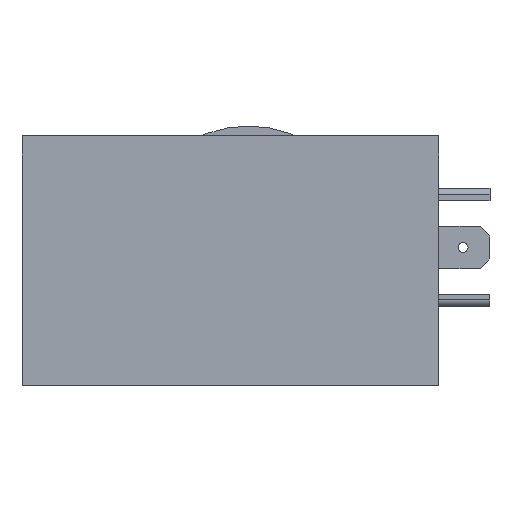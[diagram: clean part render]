
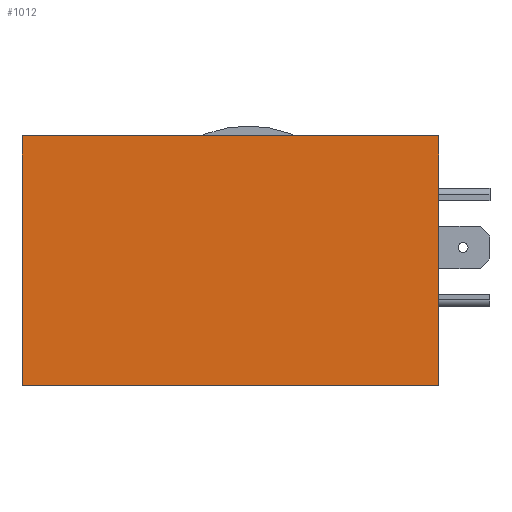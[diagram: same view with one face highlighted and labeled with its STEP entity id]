
A CAD part, front view. The second image highlights one B-rep face of the part: STEP entity #1012.
In plain terms, the highlighted planar face has unit normal (0, -1, 0) as drawn and (-1, 0, 0) by its records, which use the part's own axes.
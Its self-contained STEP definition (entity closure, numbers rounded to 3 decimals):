
#1012 = ADVANCED_FACE( '', ( #2040 ), #2041, .T. );
#2040 = FACE_OUTER_BOUND( '', #3165, .T. );
#2041 = PLANE( '', #3166 );
#3165 = EDGE_LOOP( '', ( #5012, #5013, #5014, #5015 ) );
#3166 = AXIS2_PLACEMENT_3D( '', #5016, #5017, #5018 );
#5012 = ORIENTED_EDGE( '', *, *, #6656, .F. );
#5013 = ORIENTED_EDGE( '', *, *, #6074, .F. );
#5014 = ORIENTED_EDGE( '', *, *, #6160, .T. );
#5015 = ORIENTED_EDGE( '', *, *, #6576, .T. );
#5016 = CARTESIAN_POINT( '', ( -45., -19.05, 63.5 ) );
#5017 = DIRECTION( '', ( -1., 0., 0. ) );
#5018 = DIRECTION( '', ( 0., 0., 1. ) );
#6074 = EDGE_CURVE( '', #7030, #7032, #7033, .T. );
#6160 = EDGE_CURVE( '', #7030, #7176, #7178, .T. );
#6576 = EDGE_CURVE( '', #7176, #7808, #7810, .T. );
#6656 = EDGE_CURVE( '', #7032, #7808, #7921, .T. );
#7030 = VERTEX_POINT( '', #8577 );
#7032 = VERTEX_POINT( '', #8580 );
#7033 = LINE( '', #8581, #8582 );
#7176 = VERTEX_POINT( '', #8968 );
#7178 = LINE( '', #8971, #8972 );
#7808 = VERTEX_POINT( '', #10608 );
#7810 = LINE( '', #10611, #10612 );
#7921 = LINE( '', #10916, #10917 );
#8577 = CARTESIAN_POINT( '', ( -45., -19.05, 63.5 ) );
#8580 = CARTESIAN_POINT( '', ( -45., -19.05, 0. ) );
#8581 = CARTESIAN_POINT( '', ( -45., -19.05, 63.5 ) );
#8582 = VECTOR( '', #11647, 1000. );
#8968 = CARTESIAN_POINT( '', ( -45., 19.05, 63.5 ) );
#8971 = CARTESIAN_POINT( '', ( -45., -19.05, 63.5 ) );
#8972 = VECTOR( '', #11731, 1000. );
#10608 = CARTESIAN_POINT( '', ( -45., 19.05, 0. ) );
#10611 = CARTESIAN_POINT( '', ( -45., 19.05, 63.5 ) );
#10612 = VECTOR( '', #12127, 1000. );
#10916 = CARTESIAN_POINT( '', ( -45., -19.05, 0. ) );
#10917 = VECTOR( '', #12191, 1000. );
#11647 = DIRECTION( '', ( 0., 0., -1. ) );
#11731 = DIRECTION( '', ( 0., 1., 0. ) );
#12127 = DIRECTION( '', ( 0., 0., -1. ) );
#12191 = DIRECTION( '', ( 0., 1., 0. ) );
